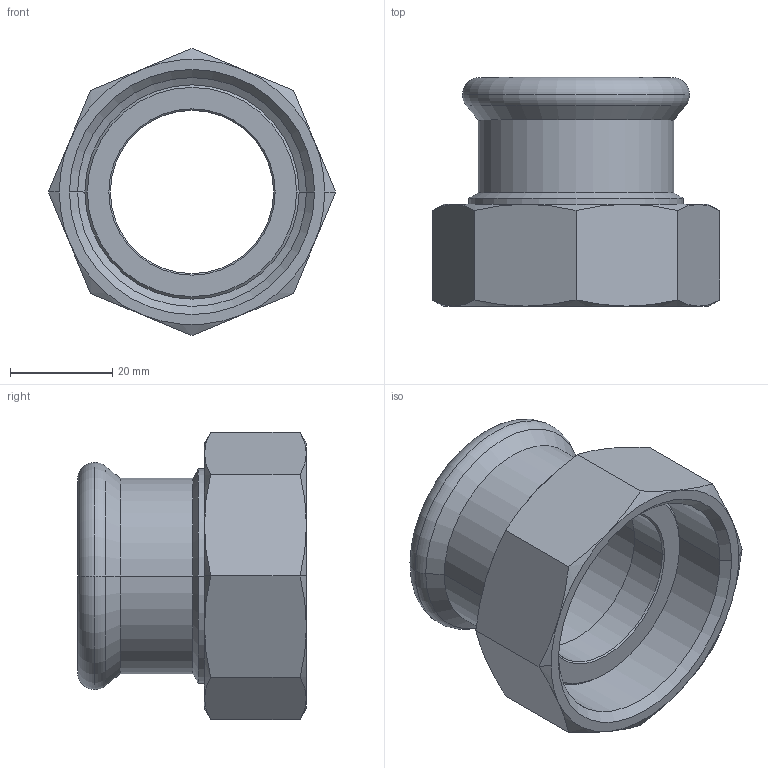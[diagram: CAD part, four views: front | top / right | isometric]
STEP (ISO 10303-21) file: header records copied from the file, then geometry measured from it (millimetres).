
FILE_DESCRIPTION(('CoCreate Modeling STEP Export'),'2;1');
FILE_NAME('C1446 35xG1 1-2.stp','2014-11-12T16:55:21',(''),(''),'CoCreate Modeling STEP processor for AP214 (Solid Model)','CoCreate Modeling 17.00A 17-Jun-2010 (C) Parametric Technology GmbH','');
FILE_SCHEMA(('AUTOMOTIVE_DESIGN { 1 0 10303 214 1 1 1 1 }'));
Length unit declared in the file: millimetre
Products named in the file (2): C1446_35xG1.3-4
Assembly tree (1 placements, depth 2):
  C1446_35xG1.3-4
    C1446_35xG1.3-4
Bounding box: 56.28 x 44.87 x 56.28 mm (x, y, z)
Volume: 25268.2 mm3; surface area: 16526.1 mm2
Topology: 1 solids, 1 shells, 73 faces, 152 edges, 84 vertices
Faces by surface type: cone 36, cylinder 16, plane 13, torus 8
Entity records: 2756 total; most frequent: CARTESIAN_POINT 1476, ORIENTED_EDGE 304, DIRECTION 180, EDGE_CURVE 152, VERTEX_POINT 84, EDGE_LOOP 78, FACE_OUTER_BOUND 73, ADVANCED_FACE 73
